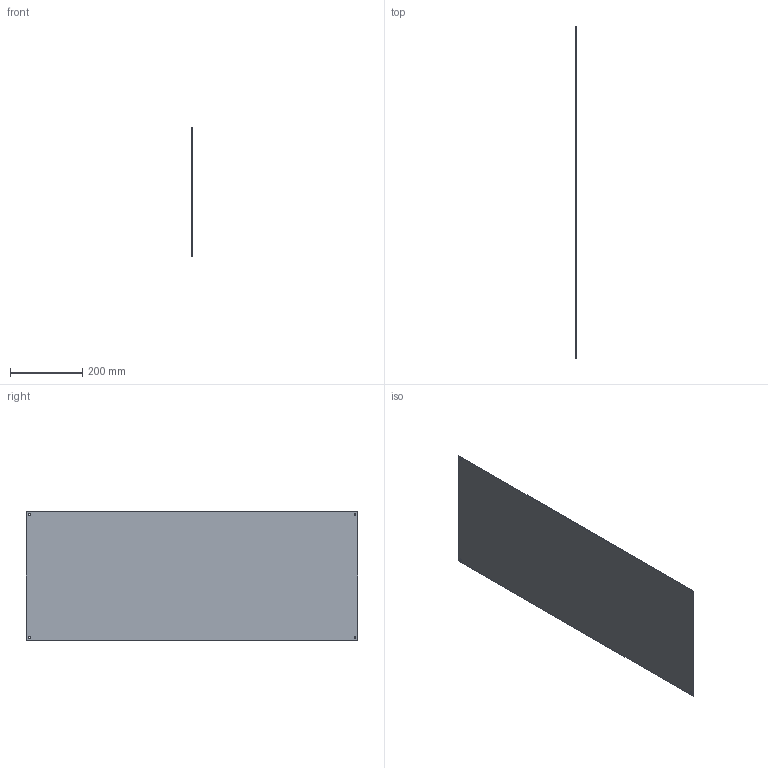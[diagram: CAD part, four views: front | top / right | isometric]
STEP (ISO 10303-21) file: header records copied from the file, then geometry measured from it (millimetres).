
FILE_DESCRIPTION(/* description */ (''),/* implementation_level */ '2;1');
FILE_NAME(/* name */ 'FRB6C0~1',/* time_stamp */ '2014-02-14T19:52:53+01:00',/* author */ (''),/* organization */ (''),/* preprocessor_version */ 'ST-DEVELOPER v14',/* originating_system */ '',/* authorisation */ '');
FILE_SCHEMA (('AUTOMOTIVE_DESIGN'));
Length unit declared in the file: millimetre
Products named in the file (1): Document
Bounding box: 1 x 917 x 356 mm (x, y, z)
Volume: 326373.2 mm3; surface area: 655355.3 mm2
Topology: 1 solids, 1 shells, 14 faces, 36 edges, 24 vertices
Faces by surface type: bspline 8, plane 6
Entity records: 978 total; most frequent: CARTESIAN_POINT 488, ORIENTED_EDGE 72, PCURVE 72, DEFINITIONAL_REPRESENTATION 72, B_SPLINE_CURVE_WITH_KNOTS 68, SURFACE_CURVE 36, EDGE_CURVE 36, VERTEX_POINT 24
